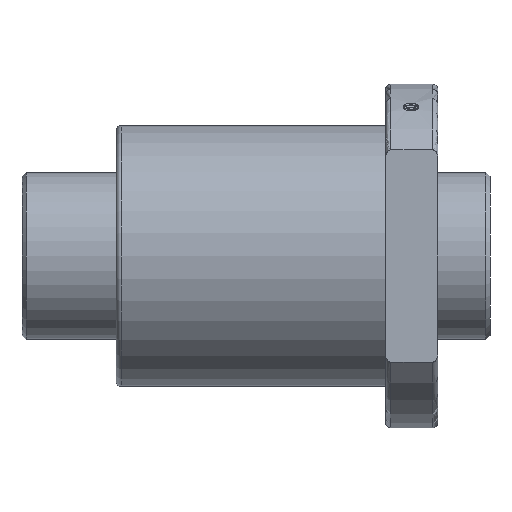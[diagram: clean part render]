
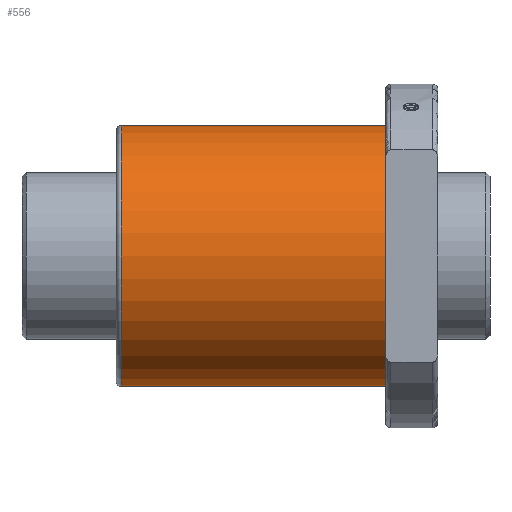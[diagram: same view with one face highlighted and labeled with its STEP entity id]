
A CAD part, front view. The second image highlights one B-rep face of the part: STEP entity #556.
In plain terms, the highlighted cylindrical face has radius 62.5 mm (diameter 125 mm), a full revolution.
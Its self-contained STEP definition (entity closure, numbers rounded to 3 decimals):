
#101=CIRCLE('',#607,62.5);
#127=CIRCLE('',#646,62.5);
#200=ORIENTED_EDGE('',*,*,#274,.F.);
#201=ORIENTED_EDGE('',*,*,#307,.T.);
#274=EDGE_CURVE('',#337,#337,#101,.T.);
#307=EDGE_CURVE('',#370,#370,#127,.T.);
#337=VERTEX_POINT('',#1489);
#370=VERTEX_POINT('',#1578);
#429=EDGE_LOOP('',(#200));
#430=EDGE_LOOP('',(#201));
#500=FACE_BOUND('',#429,.T.);
#501=FACE_BOUND('',#430,.T.);
#536=CYLINDRICAL_SURFACE('',#647,62.5);
#556=ADVANCED_FACE('',(#500,#501),#536,.T.);
#607=AXIS2_PLACEMENT_3D('',#1488,#690,#691);
#646=AXIS2_PLACEMENT_3D('',#1577,#774,#775);
#647=AXIS2_PLACEMENT_3D('',#1579,#776,#777);
#690=DIRECTION('',(1.,0.,0.));
#691=DIRECTION('',(0.,1.,0.));
#774=DIRECTION('',(1.,0.,0.));
#775=DIRECTION('',(0.,1.,0.));
#776=DIRECTION('',(1.,0.,0.));
#777=DIRECTION('',(0.,1.,0.));
#1488=CARTESIAN_POINT('',(-50.,0.,0.));
#1489=CARTESIAN_POINT('',(-50.,62.5,0.));
#1577=CARTESIAN_POINT('',(-176.5,0.,0.));
#1578=CARTESIAN_POINT('',(-176.5,62.5,0.));
#1579=CARTESIAN_POINT('',(-204.,0.,0.));
